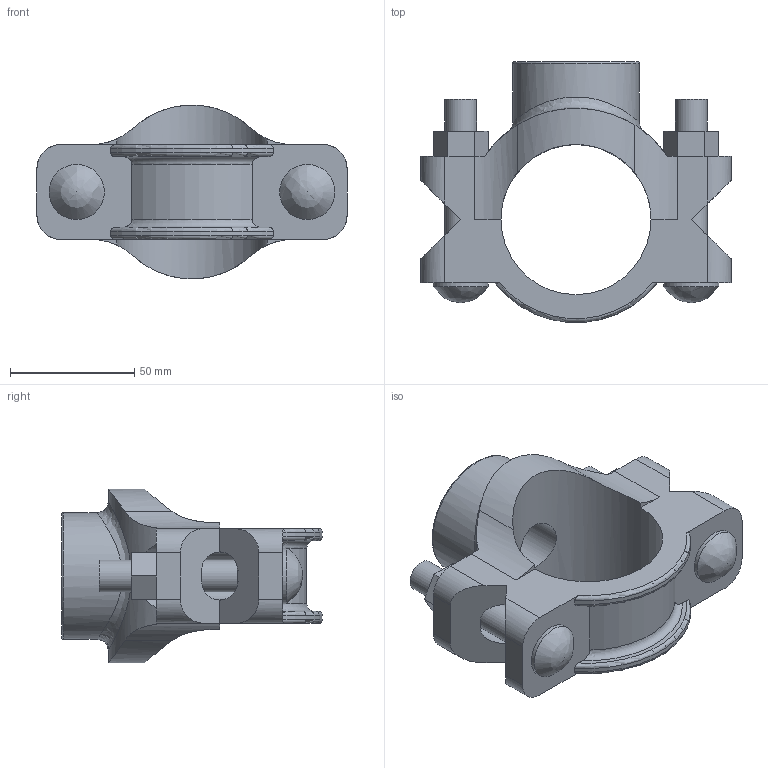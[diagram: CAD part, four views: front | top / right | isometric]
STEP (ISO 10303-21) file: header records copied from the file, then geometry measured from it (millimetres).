
FILE_DESCRIPTION(/* description */ ('VIC SS MECHANICAL T BRANCH OUTLET STYLE 422 (FPT)','CAx-IF Rec.Pracs.---Representation and Presentation of Product Manufacturing Information (PMI)---4.0---2014-10-13'),/* implementation_level */ '2;1');
FILE_NAME(/* name */ 'C:\Files for Export\422\STEP\Victaulic_SS-OGS_Mech-Tee Out_Style 422 (FPT)\Victaulic_SS-OGS_Mech-Tee Out_Style 422 (FPT)_02.0x0.75 (50x20).stp',/* time_stamp */ '2023-03-28T14:28:10+02:00',/* author */ ('jheald'),/* organization */ ('Victaulic'),/* preprocessor_version */ 'ST-DEVELOPER v18.1',/* originating_system */ 'Autodesk Inventor 2020',/* authorisation */ '');
FILE_SCHEMA (('AP242_MANAGED_MODEL_BASED_3D_ENGINEERING_MIM_LF { 1 0 10303 442 1 1 4 }'));
Length unit declared in the file: inch
Products named in the file (1): 422-02.0x0.75
Bounding box: 124.71 x 104.76 x 69.78 mm (x, y, z)
Volume: 219322.5 mm3; surface area: 52043 mm2
Topology: 1 solids, 1 shells, 92 faces, 280 edges, 186 vertices
Faces by surface type: plane 48, cylinder 34, torus 7, bspline 3
Full cylindrical faces by diameter (mm): 12.7 x4, 20.93 x1, 22.225 x2, 26.67 x1, 50.8 x1, 60.325 x1
Entity records: 3898 total; most frequent: CARTESIAN_POINT 1130, ORIENTED_EDGE 556, DIRECTION 552, EDGE_CURVE 278, AXIS2_PLACEMENT_3D 200, VERTEX_POINT 186, LINE 152, VECTOR 152
